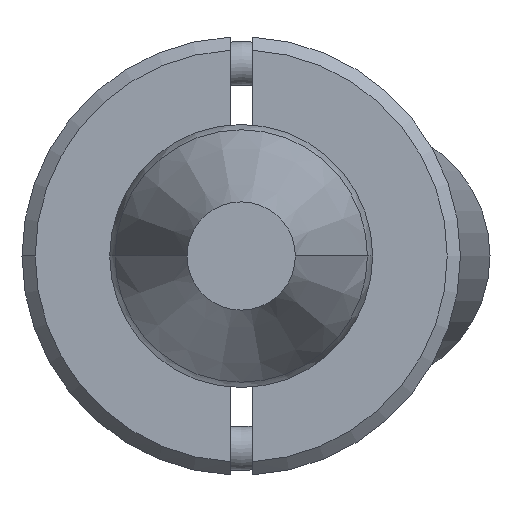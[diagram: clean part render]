
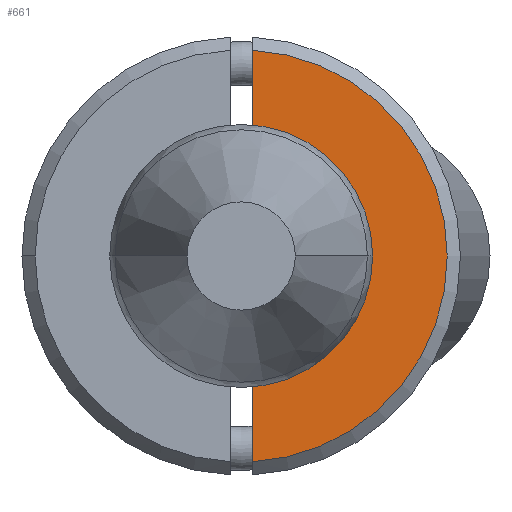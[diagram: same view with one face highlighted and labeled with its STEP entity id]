
A CAD part, front view. The second image highlights one B-rep face of the part: STEP entity #661.
In plain terms, the highlighted planar face has unit normal (0, -1, 0).
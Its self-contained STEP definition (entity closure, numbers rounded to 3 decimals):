
#3 = CARTESIAN_POINT ( 'NONE',  ( 4.693, -6., -0.25 ) ) ;
#9 = EDGE_LOOP ( 'NONE', ( #516, #3429, #306, #321, #2230 ) ) ;
#165 = CARTESIAN_POINT ( 'NONE',  ( -5., -6., 0. ) ) ;
#296 = CARTESIAN_POINT ( 'NONE',  ( 0., -6., 0. ) ) ;
#306 = ORIENTED_EDGE ( 'NONE', *, *, #1148, .F. ) ;
#321 = ORIENTED_EDGE ( 'NONE', *, *, #759, .T. ) ;
#447 = VERTEX_POINT ( 'NONE', #1177 ) ;
#458 = FACE_OUTER_BOUND ( 'NONE', #9, .T. ) ;
#496 = AXIS2_PLACEMENT_3D ( 'NONE', #2287, #2046, #3481 ) ;
#516 = ORIENTED_EDGE ( 'NONE', *, *, #2855, .F. ) ;
#661 = ADVANCED_FACE ( 'NONE', ( #458 ), #1630, .T. ) ;
#759 = EDGE_CURVE ( 'NONE', #2921, #2824, #3148, .T. ) ;
#1148 = EDGE_CURVE ( 'NONE', #2921, #1933, #3477, .T. ) ;
#1177 = CARTESIAN_POINT ( 'NONE',  ( -4.693, -6., -0.25 ) ) ;
#1234 = VERTEX_POINT ( 'NONE', #3243 ) ;
#1353 = VECTOR ( 'NONE', #3210, 1000. ) ;
#1463 = DIRECTION ( 'NONE',  ( 0., 1., 0. ) ) ;
#1630 = PLANE ( 'NONE',  #3260 ) ;
#1671 = CARTESIAN_POINT ( 'NONE',  ( -5., -6., -0.25 ) ) ;
#1933 = VERTEX_POINT ( 'NONE', #3 ) ;
#1976 = EDGE_CURVE ( 'NONE', #447, #1933, #3118, .T. ) ;
#2046 = DIRECTION ( 'NONE',  ( 0., 1., 0. ) ) ;
#2230 = ORIENTED_EDGE ( 'NONE', *, *, #3796, .T. ) ;
#2287 = CARTESIAN_POINT ( 'NONE',  ( 0., -6., 0. ) ) ;
#2370 = AXIS2_PLACEMENT_3D ( 'NONE', #296, #1463, #3549 ) ;
#2412 = LINE ( 'NONE', #3618, #3454 ) ;
#2738 = CIRCLE ( 'NONE', #2370, 2.45 ) ;
#2771 = CARTESIAN_POINT ( 'NONE',  ( 2.437, -6., -0.25 ) ) ;
#2824 = VERTEX_POINT ( 'NONE', #2979 ) ;
#2855 = EDGE_CURVE ( 'NONE', #447, #1234, #2412, .T. ) ;
#2883 = CARTESIAN_POINT ( 'NONE',  ( 0., -6., 0. ) ) ;
#2921 = VERTEX_POINT ( 'NONE', #2771 ) ;
#2979 = CARTESIAN_POINT ( 'NONE',  ( 0., -6., -2.45 ) ) ;
#3118 = CIRCLE ( 'NONE', #3567, 4.7 ) ;
#3148 = CIRCLE ( 'NONE', #496, 2.45 ) ;
#3210 = DIRECTION ( 'NONE',  ( 1., 0., 0. ) ) ;
#3243 = CARTESIAN_POINT ( 'NONE',  ( -2.437, -6., -0.25 ) ) ;
#3260 = AXIS2_PLACEMENT_3D ( 'NONE', #165, #3744, #3418 ) ;
#3290 = DIRECTION ( 'NONE',  ( 1., 0., 0. ) ) ;
#3418 = DIRECTION ( 'NONE',  ( 0., 0., -1. ) ) ;
#3429 = ORIENTED_EDGE ( 'NONE', *, *, #1976, .T. ) ;
#3454 = VECTOR ( 'NONE', #3290, 1000. ) ;
#3477 = LINE ( 'NONE', #1671, #1353 ) ;
#3481 = DIRECTION ( 'NONE',  ( 0., 0., -1. ) ) ;
#3482 = DIRECTION ( 'NONE',  ( 0., 0., -1. ) ) ;
#3549 = DIRECTION ( 'NONE',  ( 0., 0., -1. ) ) ;
#3567 = AXIS2_PLACEMENT_3D ( 'NONE', #2883, #3782, #3482 ) ;
#3618 = CARTESIAN_POINT ( 'NONE',  ( -5., -6., -0.25 ) ) ;
#3744 = DIRECTION ( 'NONE',  ( 0., -1., 0. ) ) ;
#3782 = DIRECTION ( 'NONE',  ( 0., -1., 0. ) ) ;
#3796 = EDGE_CURVE ( 'NONE', #2824, #1234, #2738, .T. ) ;
